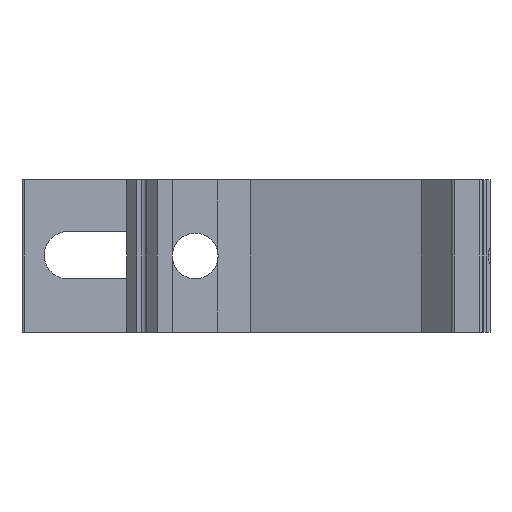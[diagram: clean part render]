
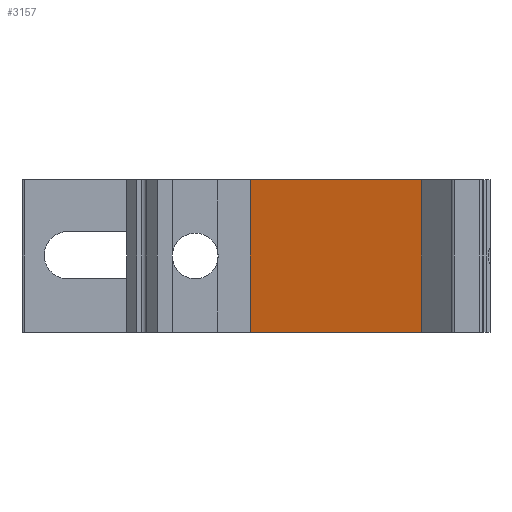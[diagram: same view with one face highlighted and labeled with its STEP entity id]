
A CAD part, front view. The second image highlights one B-rep face of the part: STEP entity #3157.
In plain terms, the highlighted planar face has unit normal (-0.259, -0.966, 0).
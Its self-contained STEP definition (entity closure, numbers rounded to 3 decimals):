
#32 = DIRECTION ( 'NONE',  ( 0.966, -0.259, 0. ) ) ;
#60 = CARTESIAN_POINT ( 'NONE',  ( 208.284, 196.831, 0. ) ) ;
#80 = VERTEX_POINT ( 'NONE', #642 ) ;
#178 = LINE ( 'NONE', #1691, #759 ) ;
#197 = ORIENTED_EDGE ( 'NONE', *, *, #1944, .T. ) ;
#213 = CARTESIAN_POINT ( 'NONE',  ( 208.284, 196.831, 0. ) ) ;
#389 = FACE_OUTER_BOUND ( 'NONE', #487, .T. ) ;
#487 = EDGE_LOOP ( 'NONE', ( #197, #1361, #967, #3246 ) ) ;
#493 = CARTESIAN_POINT ( 'NONE',  ( 208.284, 196.831, 30. ) ) ;
#539 = CARTESIAN_POINT ( 'NONE',  ( 208.284, 196.831, 30. ) ) ;
#553 = AXIS2_PLACEMENT_3D ( 'NONE', #493, #1039, #2824 ) ;
#558 = VECTOR ( 'NONE', #1165, 1000. ) ;
#642 = CARTESIAN_POINT ( 'NONE',  ( 208.284, 196.831, 30. ) ) ;
#759 = VECTOR ( 'NONE', #2445, 1000. ) ;
#967 = ORIENTED_EDGE ( 'NONE', *, *, #2608, .F. ) ;
#1039 = DIRECTION ( 'NONE',  ( 0.259, 0.966, 0. ) ) ;
#1165 = DIRECTION ( 'NONE',  ( 0., 0., -1. ) ) ;
#1224 = VERTEX_POINT ( 'NONE', #2185 ) ;
#1361 = ORIENTED_EDGE ( 'NONE', *, *, #3066, .F. ) ;
#1691 = CARTESIAN_POINT ( 'NONE',  ( 241.942, 187.812, 30. ) ) ;
#1750 = DIRECTION ( 'NONE',  ( 0.966, -0.259, 0. ) ) ;
#1944 = EDGE_CURVE ( 'NONE', #2599, #1224, #3064, .T. ) ;
#1987 = PLANE ( 'NONE',  #553 ) ;
#2091 = VECTOR ( 'NONE', #32, 1000. ) ;
#2127 = CARTESIAN_POINT ( 'NONE',  ( 208.284, 196.831, 30. ) ) ;
#2185 = CARTESIAN_POINT ( 'NONE',  ( 241.942, 187.812, 0. ) ) ;
#2216 = LINE ( 'NONE', #539, #2091 ) ;
#2346 = LINE ( 'NONE', #2127, #558 ) ;
#2348 = EDGE_CURVE ( 'NONE', #80, #2599, #2346, .T. ) ;
#2445 = DIRECTION ( 'NONE',  ( 0., 0., -1. ) ) ;
#2599 = VERTEX_POINT ( 'NONE', #60 ) ;
#2608 = EDGE_CURVE ( 'NONE', #80, #3008, #2216, .T. ) ;
#2824 = DIRECTION ( 'NONE',  ( -0.966, 0.259, 0. ) ) ;
#2976 = CARTESIAN_POINT ( 'NONE',  ( 241.942, 187.812, 30. ) ) ;
#3008 = VERTEX_POINT ( 'NONE', #2976 ) ;
#3016 = VECTOR ( 'NONE', #1750, 1000. ) ;
#3064 = LINE ( 'NONE', #213, #3016 ) ;
#3066 = EDGE_CURVE ( 'NONE', #3008, #1224, #178, .T. ) ;
#3157 = ADVANCED_FACE ( 'NONE', ( #389 ), #1987, .F. ) ;
#3246 = ORIENTED_EDGE ( 'NONE', *, *, #2348, .T. ) ;
